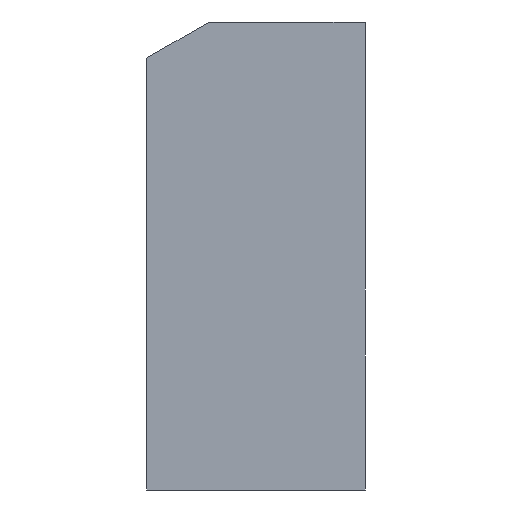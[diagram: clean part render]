
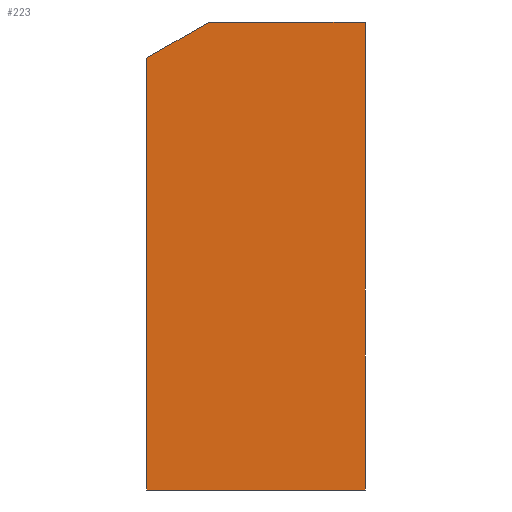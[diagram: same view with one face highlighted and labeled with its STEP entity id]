
A CAD part, left-side view. The second image highlights one B-rep face of the part: STEP entity #223.
In plain terms, the highlighted planar face has unit normal (-1, 0, 0).
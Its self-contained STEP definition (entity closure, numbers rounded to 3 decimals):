
#2 = CARTESIAN_POINT ( 'NONE',  ( -55., 3.5, 3.173 ) ) ;
#38 = CARTESIAN_POINT ( 'NONE',  ( -55., 3.5, 3.173 ) ) ;
#73 = CARTESIAN_POINT ( 'NONE',  ( -55., 3.5, 3.75 ) ) ;
#95 = DIRECTION ( 'NONE',  ( 0., -1., 0. ) ) ;
#99 = CARTESIAN_POINT ( 'NONE',  ( -55., 3.5, -3.75 ) ) ;
#135 = DIRECTION ( 'NONE',  ( 0., 0., -1. ) ) ;
#139 = LINE ( 'NONE', #38, #199 ) ;
#158 = EDGE_CURVE ( 'NONE', #513, #634, #683, .T. ) ;
#178 = DIRECTION ( 'NONE',  ( 0., 0., 1. ) ) ;
#198 = AXIS2_PLACEMENT_3D ( 'NONE', #99, #315, #135 ) ;
#199 = VECTOR ( 'NONE', #519, 1000. ) ;
#202 = CARTESIAN_POINT ( 'NONE',  ( -55., 0., -3.75 ) ) ;
#204 = ORIENTED_EDGE ( 'NONE', *, *, #476, .T. ) ;
#207 = ORIENTED_EDGE ( 'NONE', *, *, #345, .F. ) ;
#223 = ADVANCED_FACE ( 'NONE', ( #678 ), #468, .F. ) ;
#224 = LINE ( 'NONE', #73, #398 ) ;
#245 = VECTOR ( 'NONE', #95, 1000. ) ;
#261 = CARTESIAN_POINT ( 'NONE',  ( -55., 0., -3.75 ) ) ;
#263 = ORIENTED_EDGE ( 'NONE', *, *, #523, .T. ) ;
#264 = CARTESIAN_POINT ( 'NONE',  ( -55., 2.5, 3.75 ) ) ;
#308 = EDGE_LOOP ( 'NONE', ( #207, #263, #387, #204, #409 ) ) ;
#315 = DIRECTION ( 'NONE',  ( 1., 0., 0. ) ) ;
#316 = CARTESIAN_POINT ( 'NONE',  ( -55., 3.5, -3.75 ) ) ;
#345 = EDGE_CURVE ( 'NONE', #566, #634, #224, .T. ) ;
#358 = CARTESIAN_POINT ( 'NONE',  ( -55., 3.5, -3.75 ) ) ;
#387 = ORIENTED_EDGE ( 'NONE', *, *, #393, .F. ) ;
#393 = EDGE_CURVE ( 'NONE', #636, #531, #557, .T. ) ;
#398 = VECTOR ( 'NONE', #440, 1000. ) ;
#409 = ORIENTED_EDGE ( 'NONE', *, *, #158, .T. ) ;
#440 = DIRECTION ( 'NONE',  ( 0., -1., 0. ) ) ;
#468 = PLANE ( 'NONE',  #198 ) ;
#476 = EDGE_CURVE ( 'NONE', #636, #513, #572, .T. ) ;
#513 = VERTEX_POINT ( 'NONE', #261 ) ;
#519 = DIRECTION ( 'NONE',  ( 0., 0.866, -0.5 ) ) ;
#521 = DIRECTION ( 'NONE',  ( 0., 0., 1. ) ) ;
#523 = EDGE_CURVE ( 'NONE', #566, #531, #139, .T. ) ;
#531 = VERTEX_POINT ( 'NONE', #2 ) ;
#541 = VECTOR ( 'NONE', #178, 1000. ) ;
#557 = LINE ( 'NONE', #663, #541 ) ;
#566 = VERTEX_POINT ( 'NONE', #264 ) ;
#572 = LINE ( 'NONE', #358, #245 ) ;
#634 = VERTEX_POINT ( 'NONE', #644 ) ;
#636 = VERTEX_POINT ( 'NONE', #316 ) ;
#644 = CARTESIAN_POINT ( 'NONE',  ( -55., 0., 3.75 ) ) ;
#663 = CARTESIAN_POINT ( 'NONE',  ( -55., 3.5, -3.75 ) ) ;
#678 = FACE_OUTER_BOUND ( 'NONE', #308, .T. ) ;
#683 = LINE ( 'NONE', #202, #691 ) ;
#691 = VECTOR ( 'NONE', #521, 1000. ) ;
